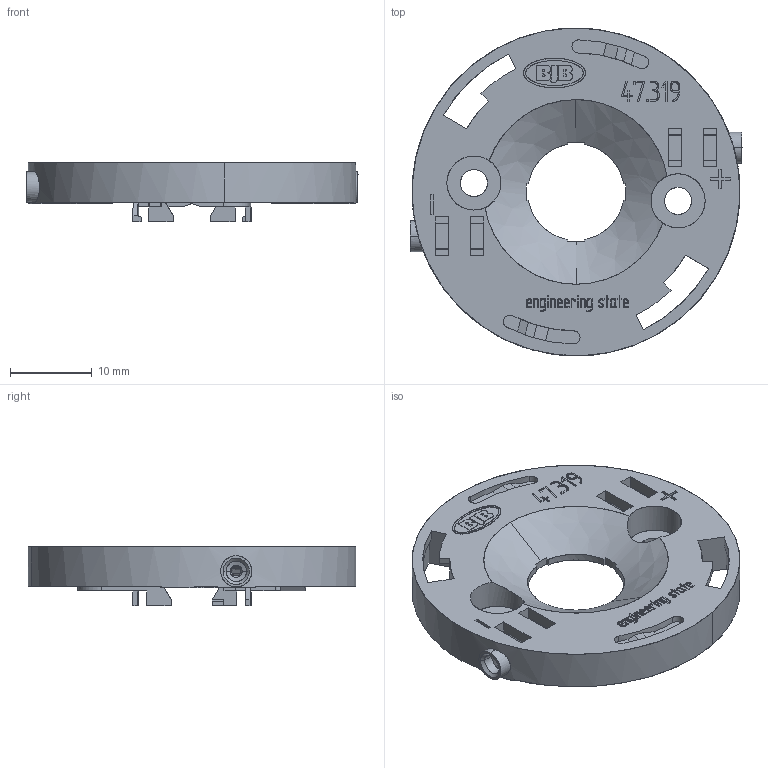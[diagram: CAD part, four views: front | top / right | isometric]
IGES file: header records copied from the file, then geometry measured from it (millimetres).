
Global section: file name: C:\coretechnologie2013\3D-in/01TYA6QY03.igs; native system: CT CoreTechnologie 3D Evolution; preprocessor: 2006; author: assmuth; date: 1150621.082059; units: millimetre
Bounding box: 40.5 x 40 x 7.25 mm (x, y, z)
Surface area: 5499.4 mm2 (no closed solid volume)
Topology: 0 solids, 0 shells, 815 faces, 4490 edges, 4490 vertices
Faces by surface type: bspline 815
